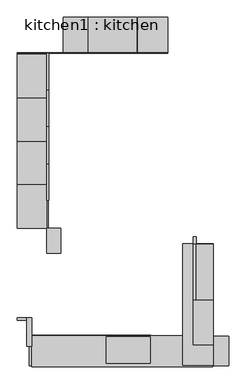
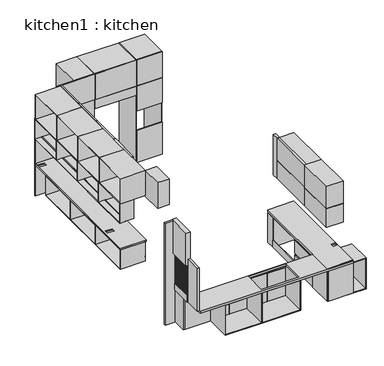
"""IFC4 building model written with IfcOpenShell, lengths in millimetres: proxy geometry, kitchen1 : kitchen."""

from ifc_helpers import new_model, si_unit, point, frame, frame_2d, origin, place, context, project, spatial, polyline, circle_curve, trimmed, segment, composite_curve, outline, extrude, faceted_brep, source, transform, mapped, element, save


def kitchen1_kitchen_40739ad4(model_context):
    return source(origin(), model_context, "Body", "SolidModel", [
        extrude(outline(polyline([(87968.8142829, 9870.1107491), (87968.8142829, 9155.1107491), (87952.8142829, 9155.1107491), (87952.8142829, 9870.1107491), (87968.8142829, 9870.1107491)])), frame((0.0, 0.0, 1482.1317688), z_axis=(0.0, 0.0, 1.0), x_axis=(1.0, 0.0, 0.0)), (0.0, 0.0, 1.0), 517.8682312),
        extrude(outline(polyline([(87968.8142829, 10590.1107491), (87968.8142829, 9875.1107491), (87952.8142829, 9875.1107491), (87952.8142829, 10590.1107491), (87968.8142829, 10590.1107491)])), frame((0.0, 0.0, 1482.1317688), z_axis=(0.0, 0.0, 1.0), x_axis=(1.0, 0.0, 0.0)), (0.0, 0.0, 1.0), 517.8682312),
        extrude(outline(polyline([(87968.8142829, 11314.0538927), (87968.8142829, 10599.0538927), (87952.8142829, 10599.0538927), (87952.8142829, 11314.0538927), (87968.8142829, 11314.0538927)])), frame((0.0, 0.0, 1482.1317688), z_axis=(0.0, 0.0, 1.0), x_axis=(1.0, 0.0, 0.0)), (0.0, 0.0, 1.0), 517.8682312),
        extrude(outline(polyline([(87898.1543572, 6285.5679647), (87898.1543572, 5909.6062924), (87851.8155242, 5909.6062924), (87851.8155242, 6285.5679647), (87898.1543572, 6285.5679647)])), frame((0.0, 0.0, 906.5027851), z_axis=(0.0, 0.0, 1.0), x_axis=(1.0, 0.0, 0.0)), (0.0, 0.0, 1.0), 1058.2779648),
        extrude(outline(polyline([(87905.0220654, 6834.5826469), (87905.0220654, 6491.4994018), (87855.0220654, 6491.4994018), (87855.0220654, 6834.5826469), (87905.0220654, 6834.5826469)])), frame((0.0, 0.0, 104.4307295), z_axis=(0.0, 0.0, 1.0), x_axis=(1.0, 0.0, 0.0)), (0.0, 0.0, 1.0), 802.0720556),
        extrude(outline(polyline([(87905.0220654, 6844.931442), (87905.0220654, 6290.5679647), (87805.0220654, 6290.5679647), (87805.0220654, 6844.931442), (87905.0220654, 6844.931442)])), frame((0.0, 0.0, 1814.7478366), z_axis=(0.0, 0.0, 1.0), x_axis=(1.0, 0.0, 0.0)), (0.0, 0.0, 1.0), 801.9221974),
        extrude(outline(polyline([(88470.9400155, 8605.6997885), (88470.9400155, 8114.8686689), (88202.8142829, 8114.8686689), (88202.8142829, 8605.6997885), (88470.9400155, 8605.6997885)])), frame((0.0, 0.0, 1979.5303702), z_axis=(0.0, 0.0, 1.0), x_axis=(1.0, 0.0, 0.0)), (0.0, 0.0, 1.0), 633.8903504),
        extrude(outline(polyline([(88238.950659, 12039.0538927), (88238.950659, 11324.0538927), (88202.8142829, 11324.0538927), (88202.8142829, 12039.0538927), (88238.950659, 12039.0538927)])), frame((0.0, 0.0, 1979.5303702), z_axis=(0.0, 0.0, 1.0), x_axis=(1.0, 0.0, 0.0)), (0.0, 0.0, 1.0), 637.1396637),
        extrude(outline(polyline([(88238.950659, 11314.0538927), (88238.950659, 10604.0873768), (88202.8142829, 10604.0873768), (88202.8142829, 11314.0538927), (88238.950659, 11314.0538927)])), frame((0.0, 0.0, 1979.5303702), z_axis=(0.0, 0.0, 1.0), x_axis=(1.0, 0.0, 0.0)), (0.0, 0.0, 1.0), 637.1396637),
        extrude(outline(polyline([(88238.950659, 10599.0873768), (88238.950659, 9875.1107491), (88202.8142829, 9875.1107491), (88202.8142829, 10599.0873768), (88238.950659, 10599.0873768)])), frame((0.0, 0.0, 1979.5303702), z_axis=(0.0, 0.0, 1.0), x_axis=(1.0, 0.0, 0.0)), (0.0, 0.0, 1.0), 637.1396637),
        extrude(outline(polyline([(88240.3399602, 9870.1107491), (88240.3399602, 9151.3749882), (88202.8142829, 9151.3749882), (88202.8142829, 9870.1107491), (88240.3399602, 9870.1107491)])), frame((0.0, 0.0, 1979.5303702), z_axis=(0.0, 0.0, 1.0), x_axis=(1.0, 0.0, 0.0)), (0.0, 0.0, 1.0), 633.8903504),
        extrude(outline(polyline([(9460.0241004, 2613.4207206), (9460.0241004, 2000.0), (8605.6997885, 2000.0), (8605.6997885, 2613.4207206), (9460.0241004, 2613.4207206)]), holes=[polyline([(9444.0241004, 2597.4207206), (8621.6997885, 2597.4207206), (8621.6997885, 2016.0), (9444.0241004, 2016.0), (9444.0241004, 2597.4207206)])]), frame((87622.8142829, 0.0, 0.0), z_axis=(1.0, 0.0, 0.0), x_axis=(0.0, 1.0, 0.0)), (0.0, 0.0, 1.0), 580.0),
        extrude(outline(polyline([(87905.0220654, 6844.931442), (87905.0220654, 6804.5826469), (87622.8142829, 6804.5826469), (87622.8142829, 6844.931442), (87905.0220654, 6844.931442)])), frame((0.0, 0.0, 101.1851969), z_axis=(0.0, 0.0, 1.0), x_axis=(1.0, 0.0, 0.0)), (0.0, 0.0, 1.0), 2512.2355238),
        faceted_brep([(87952.8142829, 9487.5680825, 1502.6177202), (87952.8142829, 9487.5680825, 2000.0), (87952.8142829, 8637.0728124, 2000.0), (87952.8142829, 8637.0728124, 1502.6177202), (87952.8142829, 9471.5680825, 1518.6177202), (87952.8142829, 8653.0728124, 1518.6177202), (87952.8142829, 8653.0728124, 1984.0), (87952.8142829, 9471.5680825, 1984.0), (87622.8142829, 9487.5680825, 1502.6177202), (87622.8142829, 8637.0728124, 1502.6177202), (87622.8142829, 8637.0728124, 2000.0), (87622.8142829, 9487.5680825, 2000.0), (87622.8142829, 9471.5680825, 1518.6177202), (87622.8142829, 9471.5680825, 1984.0), (87622.8142829, 8653.0728124, 1984.0), (87622.8142829, 8653.0728124, 1518.6177202), (87779.2554495, 9487.5680825, 1502.6177202), (87779.2554495, 9487.5680825, 1521.5396094), (87748.7155285, 9487.5680825, 1521.5396094), (87748.7155285, 9487.5680825, 1502.6177202), (87748.7155285, 8637.0728124, 1502.6177202), (87748.7155285, 8637.0728124, 1521.5396094), (87779.2554495, 8637.0728124, 1521.5396094), (87779.2554495, 8637.0728124, 1502.6177202), (87779.2554495, 9471.5680825, 1518.6177202), (87779.2554495, 8653.0728124, 1518.6177202), (87748.7155285, 8653.0728124, 1518.6177202), (87748.7155285, 9471.5680825, 1518.6177202), (87779.2554495, 8653.0728124, 1521.5396094), (87748.7155285, 8653.0728124, 1521.5396094), (87748.7155285, 9471.5680825, 1521.5396094), (87779.2554495, 9471.5680825, 1521.5396094)], [[[0, 1, 2, 3], [4, 5, 6, 7]], [[8, 9, 10, 11], [12, 13, 14, 15]], [[1, 0, 16, 17, 18, 19, 8, 11]], [[2, 1, 11, 10]], [[3, 2, 10, 9, 20, 21, 22, 23]], [[0, 3, 23, 16]], [[9, 8, 19, 20]], [[5, 4, 24, 25]], [[12, 15, 26, 27]], [[6, 5, 25, 28, 29, 26, 15, 14]], [[7, 6, 14, 13]], [[4, 7, 13, 12, 27, 30, 31, 24]], [[29, 21, 20, 19, 18, 30, 27, 26]], [[21, 29, 28, 22]], [[30, 18, 17, 31]], [[22, 28, 25, 24, 31, 17, 16, 23]]]),
        faceted_brep([(87952.8142829, 10338.0633526, 1502.6177202), (87952.8142829, 10338.0633526, 2000.0), (87952.8142829, 9487.5680825, 2000.0), (87952.8142829, 9487.5680825, 1502.6177202), (87952.8142829, 10322.0633526, 1518.6177202), (87952.8142829, 9503.5680825, 1518.6177202), (87952.8142829, 9503.5680825, 1984.0), (87952.8142829, 10322.0633526, 1984.0), (87622.8142829, 10338.0633526, 1502.6177202), (87622.8142829, 9487.5680825, 1502.6177202), (87622.8142829, 9487.5680825, 2000.0), (87622.8142829, 10338.0633526, 2000.0), (87622.8142829, 10322.0633526, 1518.6177202), (87622.8142829, 10322.0633526, 1984.0), (87622.8142829, 9503.5680825, 1984.0), (87622.8142829, 9503.5680825, 1518.6177202), (87779.2554495, 10338.0633526, 1502.6177202), (87779.2554495, 10338.0633526, 1521.5396094), (87748.7155285, 10338.0633526, 1521.5396094), (87748.7155285, 10338.0633526, 1502.6177202), (87748.7155285, 9487.5680825, 1502.6177202), (87748.7155285, 9487.5680825, 1521.5396094), (87779.2554495, 9487.5680825, 1521.5396094), (87779.2554495, 9487.5680825, 1502.6177202), (87779.2554495, 10322.0633526, 1518.6177202), (87779.2554495, 9503.5680825, 1518.6177202), (87748.7155285, 9503.5680825, 1518.6177202), (87748.7155285, 10322.0633526, 1518.6177202), (87779.2554495, 9503.5680825, 1521.5396094), (87748.7155285, 9503.5680825, 1521.5396094), (87748.7155285, 10322.0633526, 1521.5396094), (87779.2554495, 10322.0633526, 1521.5396094)], [[[0, 1, 2, 3], [4, 5, 6, 7]], [[8, 9, 10, 11], [12, 13, 14, 15]], [[1, 0, 16, 17, 18, 19, 8, 11]], [[2, 1, 11, 10]], [[3, 2, 10, 9, 20, 21, 22, 23]], [[0, 3, 23, 16]], [[9, 8, 19, 20]], [[5, 4, 24, 25]], [[12, 15, 26, 27]], [[6, 5, 25, 28, 29, 26, 15, 14]], [[7, 6, 14, 13]], [[4, 7, 13, 12, 27, 30, 31, 24]], [[29, 21, 20, 19, 18, 30, 27, 26]], [[21, 29, 28, 22]], [[30, 18, 17, 31]], [[22, 28, 25, 24, 31, 17, 16, 23]]]),
        faceted_brep([(87952.8142829, 11188.5586226, 1502.6177202), (87952.8142829, 11188.5586226, 2000.0), (87952.8142829, 10338.0633526, 2000.0), (87952.8142829, 10338.0633526, 1502.6177202), (87952.8142829, 11172.5586226, 1518.6177202), (87952.8142829, 10354.0633526, 1518.6177202), (87952.8142829, 10354.0633526, 1984.0), (87952.8142829, 11172.5586226, 1984.0), (87622.8142829, 11188.5586226, 1502.6177202), (87622.8142829, 10338.0633526, 1502.6177202), (87622.8142829, 10338.0633526, 2000.0), (87622.8142829, 11188.5586226, 2000.0), (87622.8142829, 11172.5586226, 1518.6177202), (87622.8142829, 11172.5586226, 1984.0), (87622.8142829, 10354.0633526, 1984.0), (87622.8142829, 10354.0633526, 1518.6177202), (87779.2554495, 11188.5586226, 1502.6177202), (87779.2554495, 11188.5586226, 1521.5396094), (87748.7155285, 11188.5586226, 1521.5396094), (87748.7155285, 11188.5586226, 1502.6177202), (87748.7155285, 10338.0633526, 1502.6177202), (87748.7155285, 10338.0633526, 1521.5396094), (87779.2554495, 10338.0633526, 1521.5396094), (87779.2554495, 10338.0633526, 1502.6177202), (87779.2554495, 11172.5586226, 1518.6177202), (87779.2554495, 10354.0633526, 1518.6177202), (87748.7155285, 10354.0633526, 1518.6177202), (87748.7155285, 11172.5586226, 1518.6177202), (87779.2554495, 10354.0633526, 1521.5396094), (87748.7155285, 10354.0633526, 1521.5396094), (87748.7155285, 11172.5586226, 1521.5396094), (87779.2554495, 11172.5586226, 1521.5396094)], [[[0, 1, 2, 3], [4, 5, 6, 7]], [[8, 9, 10, 11], [12, 13, 14, 15]], [[1, 0, 16, 17, 18, 19, 8, 11]], [[2, 1, 11, 10]], [[3, 2, 10, 9, 20, 21, 22, 23]], [[0, 3, 23, 16]], [[9, 8, 19, 20]], [[5, 4, 24, 25]], [[12, 15, 26, 27]], [[6, 5, 25, 28, 29, 26, 15, 14]], [[7, 6, 14, 13]], [[4, 7, 13, 12, 27, 30, 31, 24]], [[29, 21, 20, 19, 18, 30, 27, 26]], [[21, 29, 28, 22]], [[30, 18, 17, 31]], [[22, 28, 25, 24, 31, 17, 16, 23]]]),
        faceted_brep([(87952.8142829, 12039.0538927, 1502.6177202), (87952.8142829, 12039.0538927, 2000.0), (87952.8142829, 11188.5586226, 2000.0), (87952.8142829, 11188.5586226, 1502.6177202), (87952.8142829, 12023.0538927, 1518.6177202), (87952.8142829, 11204.5586226, 1518.6177202), (87952.8142829, 11204.5586226, 1984.0), (87952.8142829, 12023.0538927, 1984.0), (87622.8142829, 12039.0538927, 1502.6177202), (87622.8142829, 11188.5586226, 1502.6177202), (87622.8142829, 11188.5586226, 2000.0), (87622.8142829, 12039.0538927, 2000.0), (87622.8142829, 12023.0538927, 1518.6177202), (87622.8142829, 12023.0538927, 1984.0), (87622.8142829, 11204.5586226, 1984.0), (87622.8142829, 11204.5586226, 1518.6177202), (87748.7155285, 11188.5586226, 1502.6177202), (87748.7155285, 11188.5586226, 1521.5396094), (87779.2554495, 11188.5586226, 1521.5396094), (87779.2554495, 11188.5586226, 1502.6177202), (87779.2554495, 12034.4600318, 1502.6177202), (87748.7155285, 12034.4600318, 1502.6177202), (87779.2554495, 12023.0538927, 1518.6177202), (87779.2554495, 11204.5586226, 1518.6177202), (87748.7155285, 11204.5586226, 1518.6177202), (87748.7155285, 12023.0538927, 1518.6177202), (87779.2554495, 11204.5586226, 1521.5396094), (87748.7155285, 11204.5586226, 1521.5396094), (87748.7155285, 12023.0538927, 1521.5396094), (87779.2554495, 12023.0538927, 1521.5396094), (87779.2554495, 12034.4600318, 1521.5396094), (87748.7155285, 12034.4600318, 1521.5396094)], [[[0, 1, 2, 3], [4, 5, 6, 7]], [[8, 9, 10, 11], [12, 13, 14, 15]], [[1, 0, 8, 11]], [[2, 1, 11, 10]], [[3, 2, 10, 9, 16, 17, 18, 19]], [[0, 3, 19, 20, 21, 16, 9, 8]], [[5, 4, 22, 23]], [[12, 15, 24, 25]], [[6, 5, 23, 26, 27, 24, 15, 14]], [[7, 6, 14, 13]], [[4, 7, 13, 12, 25, 28, 29, 22]], [[30, 31, 21, 20]], [[21, 31, 28, 25, 24, 27, 17, 16]], [[31, 30, 29, 28]], [[17, 27, 26, 18]], [[30, 20, 19, 18, 26, 23, 22, 29]]]),
        extrude(outline(polyline([(91078.0647467, 7205.8256768), (91078.0647467, 8287.4222969), (91125.1689733, 8287.4222969), (91125.1689733, 7205.8256768), (91078.0647467, 7205.8256768)])), frame((0.0, 0.0, 2059.6838445), z_axis=(0.0, 0.0, 1.0), x_axis=(1.0, 0.0, 0.0)), (0.0, 0.0, 1.0), 535.4452003),
        extrude(outline(polyline([(91078.0647467, 7205.8256768), (91078.0647467, 8287.4222969), (91125.1689733, 8287.4222969), (91125.1689733, 7205.8256768), (91078.0647467, 7205.8256768)])), frame((0.0, 0.0, 1600.0), z_axis=(0.0, 0.0, 1.0), x_axis=(1.0, 0.0, 0.0)), (0.0, 0.0, 1.0), 450.0),
        extrude(outline(polyline([(8295.6676286, 2592.7934009), (8295.6676286, 2050.0), (7197.2130213, 2050.0), (7197.2130213, 2592.7934009), (8295.6676286, 2592.7934009)]), holes=[polyline([(7213.2130213, 2066.0), (8279.6676286, 2066.0), (8279.6676286, 2576.7934009), (7213.2130213, 2576.7934009), (7213.2130213, 2066.0)])]), frame((91125.1689733, 0.0, 0.0), z_axis=(1.0, 0.0, 0.0), x_axis=(0.0, 1.0, 0.0)), (0.0, 0.0, 1.0), 341.5533561),
        extrude(outline(polyline([(89973.3334259, 12039.0538927), (89018.2119206, 12039.0538927), (89018.2119206, 12055.0538927), (89973.3334259, 12055.0538927), (89973.3334259, 12039.0538927)])), frame((0.0, 0.0, 1990.3743911), z_axis=(0.0, 0.0, 1.0), x_axis=(1.0, 0.0, 0.0)), (0.0, 0.0, 1.0), 626.2956428),
        extrude(outline(polyline([(88223.5455637, 12039.0538927), (87622.8142829, 12039.0538927), (87622.8142829, 12055.0538927), (88223.5455637, 12055.0538927), (88223.5455637, 12039.0538927)])), frame((0.0, 0.0, 108.9305853), z_axis=(0.0, 0.0, 1.0), x_axis=(1.0, 0.0, 0.0)), (0.0, 0.0, 1.0), 1907.0694147),
        extrude(outline(polyline([(91078.0647467, 8295.6676286), (91078.0647467, 8441.7518002), (91131.7470837, 8441.7518002), (91131.7470837, 8295.6676286), (91078.0647467, 8295.6676286)])), frame((0.0, 0.0, 1600.0), z_axis=(0.0, 0.0, 1.0), x_axis=(1.0, 0.0, 0.0)), (0.0, 0.0, 1.0), 995.1290448),
        extrude(outline(polyline([(90870.7223294, 7225.9263944), (90870.7223294, 8110.2530158), (90886.7223294, 8110.2530158), (90886.7223294, 7225.9263944), (90870.7223294, 7225.9263944)])), frame((0.0, 0.0, 100.612998), z_axis=(0.0, 0.0, 1.0), x_axis=(1.0, 0.0, 0.0)), (0.0, 0.0, 1.0), 173.0940065),
        extrude(outline(polyline([(89978.2182829, 12039.0538927), (89021.2319045, 12039.0538927), (89021.2319045, 12055.0538927), (89978.2182829, 12055.0538927), (89978.2182829, 12039.0538927)])), frame((0.0, 0.0, 1764.5047999), z_axis=(0.0, 0.0, 1.0), x_axis=(1.0, 0.0, 0.0)), (0.0, 0.0, 1.0), 222.5831651),
        extrude(outline(polyline([(91078.0647467, 6317.3965005), (91078.0647467, 7192.3363239), (91466.7223294, 7192.3363239), (91466.7223294, 6317.3965005), (91078.0647467, 6317.3965005)])), frame((0.0, 0.0, 2056.7175134), z_axis=(0.0, 0.0, 1.0), x_axis=(1.0, 0.0, 0.0)), (0.0, 0.0, 1.0), 539.3737249),
        extrude(outline(polyline([(8295.6676286, 2050.0), (8295.6676286, 1600.0), (7197.2130213, 1600.0), (7197.2130213, 2050.0), (8295.6676286, 2050.0)]), holes=[polyline([(7213.2130213, 1616.0), (8279.6676286, 1616.0), (8279.6676286, 2034.0), (7213.2130213, 2034.0), (7213.2130213, 1616.0)])]), frame((91125.1689733, 0.0, 0.0), z_axis=(1.0, 0.0, 0.0), x_axis=(0.0, 1.0, 0.0)), (0.0, 0.0, 1.0), 341.5533561),
        extrude(outline(polyline([(91078.0647467, 6317.3965005), (91078.0647467, 7192.3363239), (91466.7223294, 7192.3363239), (91466.7223294, 6317.3965005), (91078.0647467, 6317.3965005)])), frame((0.0, 0.0, 1600.0), z_axis=(0.0, 0.0, 1.0), x_axis=(1.0, 0.0, 0.0)), (0.0, 0.0, 1.0), 450.0),
        extrude(outline(polyline([(90870.7223294, 6504.3406445), (90870.7223294, 7221.8256768), (90886.7223294, 7221.8256768), (90886.7223294, 6504.3406445), (90870.7223294, 6504.3406445)])), frame((0.0, 0.0, 100.0), z_axis=(0.0, 0.0, 1.0), x_axis=(1.0, 0.0, 0.0)), (0.0, 0.0, 1.0), 350.0),
        extrude(outline(polyline([(90870.7223294, 6499.4379812), (90870.7223294, 7221.8256768), (90886.7223294, 7221.8256768), (90886.7223294, 6499.4379812), (90870.7223294, 6499.4379812)])), frame((0.0, 0.0, 493.1683992), z_axis=(0.0, 0.0, 1.0), x_axis=(1.0, 0.0, 0.0)), (0.0, 0.0, 1.0), 320.8316008),
        extrude(outline(polyline([(90884.3733843, 6194.824303), (90884.3733843, 7221.8256768), (90886.7223294, 7221.8256768), (90886.7223294, 6194.824303), (90884.3733843, 6194.824303)])), frame((0.0, 0.0, 453.1683992), z_axis=(0.0, 0.0, 1.0), x_axis=(1.0, 0.0, 0.0)), (0.0, 0.0, 1.0), 40.0),
        extrude(outline(polyline([(6194.824303, 850.0), (7221.8256768, 850.0), (7221.8256768, 100.0), (6194.824303, 100.0), (6194.824303, 850.0)]), holes=[polyline([(6210.824303, 116.0), (7205.8256768, 116.0), (7205.8256768, 834.0), (6210.824303, 834.0), (6210.824303, 116.0)])]), frame((90886.7223294, 0.0, 0.0), z_axis=(1.0, 0.0, 0.0), x_axis=(0.0, 1.0, 0.0)), (0.0, 0.0, 1.0), 580.0),
        extrude(outline(polyline([(88218.8142829, 12023.6077736), (88218.8142829, 11324.0538927), (88202.8142829, 11324.0538927), (88202.8142829, 12023.6077736), (88218.8142829, 12023.6077736)])), frame((0.0, 0.0, 510.9680553), z_axis=(0.0, 0.0, 1.0), x_axis=(1.0, 0.0, 0.0)), (0.0, 0.0, 1.0), 330.183765),
        extrude(outline(polyline([(88218.8142829, 12023.6077736), (88218.8142829, 11324.0538927), (88202.8142829, 11324.0538927), (88202.8142829, 12023.6077736), (88218.8142829, 12023.6077736)])), frame((0.0, 0.0, 116.0), z_axis=(0.0, 0.0, 1.0), x_axis=(1.0, 0.0, 0.0)), (0.0, 0.0, 1.0), 369.175666),
        extrude(outline(polyline([(88218.8142829, 11314.0538927), (88218.8142829, 10599.0873768), (88202.8142829, 10599.0873768), (88202.8142829, 11314.0538927), (88218.8142829, 11314.0538927)])), frame((0.0, 0.0, 510.9680553), z_axis=(0.0, 0.0, 1.0), x_axis=(1.0, 0.0, 0.0)), (0.0, 0.0, 1.0), 330.183765),
        extrude(outline(polyline([(88218.8142829, 11314.0538927), (88218.8142829, 10599.0873768), (88202.8142829, 10599.0873768), (88202.8142829, 11314.0538927), (88218.8142829, 11314.0538927)])), frame((0.0, 0.0, 116.0), z_axis=(0.0, 0.0, 1.0), x_axis=(1.0, 0.0, 0.0)), (0.0, 0.0, 1.0), 369.175666),
        extrude(outline(polyline([(88218.8142829, 10590.1107491), (88218.8142829, 9875.1107491), (88202.8142829, 9875.1107491), (88202.8142829, 10590.1107491), (88218.8142829, 10590.1107491)])), frame((0.0, 0.0, 510.9680553), z_axis=(0.0, 0.0, 1.0), x_axis=(1.0, 0.0, 0.0)), (0.0, 0.0, 1.0), 330.183765),
        extrude(outline(polyline([(88218.8142829, 10590.1107491), (88218.8142829, 9870.1107491), (88202.8142829, 9870.1107491), (88202.8142829, 10590.1107491), (88218.8142829, 10590.1107491)])), frame((0.0, 0.0, 116.0), z_axis=(0.0, 0.0, 1.0), x_axis=(1.0, 0.0, 0.0)), (0.0, 0.0, 1.0), 369.175666),
        extrude(outline(polyline([(12022.9970363, 2613.4207206), (12022.9970363, 2000.0), (11168.6727244, 2000.0), (11168.6727244, 2613.4207206), (12022.9970363, 2613.4207206)]), holes=[polyline([(12006.9970363, 2597.4207206), (11184.6727244, 2597.4207206), (11184.6727244, 2016.0), (12006.9970363, 2016.0), (12006.9970363, 2597.4207206)])]), frame((87622.8142829, 0.0, 0.0), z_axis=(1.0, 0.0, 0.0), x_axis=(0.0, 1.0, 0.0)), (0.0, 0.0, 1.0), 580.0),
        extrude(outline(polyline([(11168.6727244, 2613.4207206), (11168.6727244, 2000.0), (10314.3484124, 2000.0), (10314.3484124, 2613.4207206), (11168.6727244, 2613.4207206)]), holes=[polyline([(11152.6727244, 2597.4207206), (10330.3484124, 2597.4207206), (10330.3484124, 2016.0), (11152.6727244, 2016.0), (11152.6727244, 2597.4207206)])]), frame((87622.8142829, 0.0, 0.0), z_axis=(1.0, 0.0, 0.0), x_axis=(0.0, 1.0, 0.0)), (0.0, 0.0, 1.0), 580.0),
        extrude(outline(polyline([(10314.3484124, 2613.4207206), (10314.3484124, 2000.0), (9460.0241004, 2000.0), (9460.0241004, 2613.4207206), (10314.3484124, 2613.4207206)]), holes=[polyline([(10298.3484124, 2597.4207206), (9476.0241004, 2597.4207206), (9476.0241004, 2016.0), (10298.3484124, 2016.0), (10298.3484124, 2597.4207206)])]), frame((87622.8142829, 0.0, 0.0), z_axis=(1.0, 0.0, 0.0), x_axis=(0.0, 1.0, 0.0)), (0.0, 0.0, 1.0), 580.0),
        extrude(outline(polyline([(90870.7223294, 8116.006241), (90870.7223294, 8304.6339771), (90886.7223294, 8304.6339771), (90886.7223294, 8116.006241), (90870.7223294, 8116.006241)])), frame((0.0, 0.0, 100.612998), z_axis=(0.0, 0.0, 1.0), x_axis=(1.0, 0.0, 0.0)), (0.0, 0.0, 1.0), 713.387002),
        extrude(outline(polyline([(90884.3733843, 6499.4379812), (90884.3733843, 8304.6339771), (90886.7223294, 8304.6339771), (90886.7223294, 6499.4379812), (90884.3733843, 6499.4379812)])), frame((0.0, 0.0, 813.7762495), z_axis=(0.0, 0.0, 1.0), x_axis=(1.0, 0.0, 0.0)), (0.0, 0.0, 1.0), 40.0),
        extrude(outline(polyline([(8116.006241, 850.0), (8236.1847375, 850.0), (8236.1847375, 100.0), (8116.006241, 100.0), (8116.006241, 850.0)]), holes=[polyline([(8132.006241, 116.0), (8220.1847375, 116.0), (8220.1847375, 834.0), (8132.006241, 834.0), (8132.006241, 116.0)])]), frame((90886.7223294, 0.0, 0.0), z_axis=(1.0, 0.0, 0.0), x_axis=(0.0, 1.0, 0.0)), (0.0, 0.0, 1.0), 580.0),
        extrude(outline(polyline([(5906.0136967, 850.0), (6933.1039966, 850.0), (6933.1039966, 100.0), (5906.0136967, 100.0), (5906.0136967, 850.0)]), holes=[polyline([(5922.0136967, 116.0), (6917.1039966, 116.0), (6917.1039966, 834.0), (5922.0136967, 834.0), (5922.0136967, 116.0)])]), frame((90886.7223294, 0.0, 0.0), z_axis=(1.0, 0.0, 0.0), x_axis=(0.0, 1.0, 0.0)), (0.0, 0.0, 1.0), 580.0),
        extrude(outline(polyline([(89364.437146, 6504.897378), (89796.9428688, 6504.7383653), (89796.9369863, 6488.7383664), (89364.4312636, 6488.8973791), (89364.437146, 6504.897378)])), frame((0.0, 0.0, 100.0), z_axis=(0.0, 0.0, 1.0), x_axis=(1.0, 0.0, 0.0)), (0.0, 0.0, 1.0), 710.2357983),
        extrude(outline(polyline([(89805.3577428, 6504.7352716), (90237.8634655, 6504.5762589), (90237.8575831, 6488.57626), (89805.3518603, 6488.7352727), (89805.3577428, 6504.7352716)])), frame((0.0, 0.0, 100.0), z_axis=(0.0, 0.0, 1.0), x_axis=(1.0, 0.0, 0.0)), (0.0, 0.0, 1.0), 710.2357983),
        extrude(outline(polyline([(88093.0334189, 6491.7137595), (91352.0561143, 6490.5155651), (91352.0552507, 6488.1666202), (88093.0325553, 6489.3648146), (88093.0334189, 6491.7137595)])), frame((0.0, 0.0, 810.2357983), z_axis=(0.0, 0.0, 1.0), x_axis=(1.0, 0.0, 0.0)), (0.0, 0.0, 1.0), 40.0),
        extrude(outline(polyline([(87905.0250084, 6505.4339375), (88911.9429286, 6505.0637396), (88911.9370461, 6489.0637406), (87905.0191259, 6489.4339385), (87905.0250084, 6505.4339375)])), frame((0.0, 0.0, 100.0), z_axis=(0.0, 0.0, 1.0), x_axis=(1.0, 0.0, 0.0)), (0.0, 0.0, 1.0), 710.2357983),
        extrude(outline(polyline([(88920.3578026, 6505.0606458), (89352.8635254, 6504.9016331), (89352.8576429, 6488.9016342), (88920.3519201, 6489.0606469), (88920.3578026, 6505.0606458)])), frame((0.0, 0.0, 100.0), z_axis=(0.0, 0.0, 1.0), x_axis=(1.0, 0.0, 0.0)), (0.0, 0.0, 1.0), 710.2357983),
        faceted_brep([(90247.4071443, 6488.6207554, 850.0), (90247.4071443, 6488.6207554, 100.0), (89347.8576609, 6488.9514789, 100.0), (89347.8576609, 6488.9514789, 850.0), (90231.4071453, 6488.6266379, 116.0), (90231.4071453, 6488.6266379, 834.0), (89363.8576598, 6488.9455964, 834.0), (89363.8576598, 6488.9455964, 116.0), (90247.1939047, 5908.6207946, 850.0), (89347.6444213, 5908.9515181, 850.0), (89347.6444213, 5908.9515181, 100.0), (90247.1939047, 5908.6207946, 100.0), (90231.1939057, 5908.6266771, 116.0), (89363.6444202, 5908.9456356, 116.0), (89363.6444202, 5908.9456356, 834.0), (90231.1939057, 5908.6266771, 834.0), (90231.3059184, 6471.5993148, 850.0), (90231.3059184, 5954.9911886, 850.0), (89363.7563157, 5954.9911886, 850.0), (89363.7563157, 6471.5993148, 850.0), (90231.2109519, 5954.9911886, 834.0), (90231.4008852, 6471.5992799, 834.0), (89363.8512823, 6471.5993148, 834.0), (89363.661349, 5954.9911886, 834.0)], [[[0, 1, 2, 3], [4, 5, 6, 7]], [[8, 9, 10, 11], [12, 13, 14, 15]], [[1, 0, 8, 11]], [[2, 1, 11, 10]], [[3, 2, 10, 9]], [[0, 3, 9, 8], [16, 17, 18, 19]], [[5, 4, 12, 15, 20, 17, 16, 21]], [[6, 5, 21, 22]], [[15, 14, 23, 20]], [[7, 6, 22, 19, 18, 23, 14, 13]], [[4, 7, 13, 12]], [[17, 20, 23, 18]], [[21, 16, 19, 22]]]),
        extrude(outline(polyline([(0.0, 0.0), (0.0, -852.0096848), (-750.0, -852.0096848), (-750.0, 0.0), (0.0, 0.0)]), holes=[polyline([(-734.0, -16.0), (-734.0, -836.0096847), (-16.0, -836.0096847), (-16.0, -16.0), (-734.0, -16.0)])]), frame((89347.6444036, 5908.9035117, 850.0), z_axis=(0.0003676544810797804, 0.999999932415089, 0.0), x_axis=(0.0, 0.0, 1.0)), (0.0, 0.0, 1.0), 580.0),
        extrude(outline(polyline([(0.0, 0.0), (0.0, -899.5495442), (-750.0, -899.5495442), (-750.0, 0.0), (0.0, 0.0)]), holes=[polyline([(-734.0, -16.0), (-734.0, -883.5495442), (-16.0, -883.5495442), (-16.0, -16.0), (-734.0, -16.0)])]), frame((91766.7432947, 5908.0141191, 850.0), z_axis=(0.0003676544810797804, 0.999999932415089, 0.0), x_axis=(0.0, 0.0, 1.0)), (0.0, 0.0, 1.0), 580.0),
        extrude(outline(polyline([(6834.5826469, 1814.7478366), (6834.5826469, 906.5027851), (6292.7811789, 906.5027851), (6292.7811789, 1814.7478366), (6834.5826469, 1814.7478366)]), holes=[composite_curve([segment(trimmed(circle_curve(frame_2d((6351.1184437, 1731.089786)), 5.0), [point((6351.1184437, 1736.089786))], [point((6351.1184437, 1726.089786))], True, "CARTESIAN"), True, "CONTINUOUS"), segment(polyline([(6351.1184437, 1726.089786), (6806.1184437, 1726.089786)]), True, "CONTINUOUS"), segment(trimmed(circle_curve(frame_2d((6806.1184437, 1731.089786)), 5.0), [point((6806.1184437, 1726.089786))], [point((6806.1184437, 1736.089786))], True, "CARTESIAN"), True, "CONTINUOUS"), segment(polyline([(6806.1184437, 1736.089786), (6351.1184437, 1736.089786)]), True, "CONTINUOUS")], self_intersect=False), composite_curve([segment(trimmed(circle_curve(frame_2d((6351.1184437, 1706.089786)), 5.0), [point((6351.1184437, 1711.089786))], [point((6351.1184437, 1701.089786))], True, "CARTESIAN"), True, "CONTINUOUS"), segment(polyline([(6351.1184437, 1701.089786), (6806.1184437, 1701.089786)]), True, "CONTINUOUS"), segment(trimmed(circle_curve(frame_2d((6806.1184437, 1706.089786)), 5.0), [point((6806.1184437, 1701.089786))], [point((6806.1184437, 1711.089786))], True, "CARTESIAN"), True, "CONTINUOUS"), segment(polyline([(6806.1184437, 1711.089786), (6351.1184437, 1711.089786)]), True, "CONTINUOUS")], self_intersect=False), composite_curve([segment(trimmed(circle_curve(frame_2d((6351.1184437, 1680.5678798)), 5.0), [point((6351.1184437, 1685.5678798))], [point((6351.1184437, 1675.5678798))], True, "CARTESIAN"), True, "CONTINUOUS"), segment(polyline([(6351.1184437, 1675.5678798), (6806.1184437, 1675.5678798)]), True, "CONTINUOUS"), segment(trimmed(circle_curve(frame_2d((6806.1184437, 1680.5678798)), 5.0), [point((6806.1184437, 1675.5678798))], [point((6806.1184437, 1685.5678798))], True, "CARTESIAN"), True, "CONTINUOUS"), segment(polyline([(6806.1184437, 1685.5678798), (6351.1184437, 1685.5678798)]), True, "CONTINUOUS")], self_intersect=False), composite_curve([segment(trimmed(circle_curve(frame_2d((6351.1184437, 1655.0459736)), 5.0), [point((6351.1184437, 1660.0459736))], [point((6351.1184437, 1650.0459736))], True, "CARTESIAN"), True, "CONTINUOUS"), segment(polyline([(6351.1184437, 1650.0459736), (6806.1184437, 1650.0459736)]), True, "CONTINUOUS"), segment(trimmed(circle_curve(frame_2d((6806.1184437, 1655.0459736)), 5.0), [point((6806.1184437, 1650.0459736))], [point((6806.1184437, 1660.0459736))], True, "CARTESIAN"), True, "CONTINUOUS"), segment(polyline([(6806.1184437, 1660.0459736), (6351.1184437, 1660.0459736)]), True, "CONTINUOUS")], self_intersect=False), composite_curve([segment(trimmed(circle_curve(frame_2d((6351.1184437, 1629.5240674)), 5.0), [point((6351.1184437, 1634.5240674))], [point((6351.1184437, 1624.5240674))], True, "CARTESIAN"), True, "CONTINUOUS"), segment(polyline([(6351.1184437, 1624.5240674), (6806.1184437, 1624.5240674)]), True, "CONTINUOUS"), segment(trimmed(circle_curve(frame_2d((6806.1184437, 1629.5240674)), 5.0), [point((6806.1184437, 1624.5240674))], [point((6806.1184437, 1634.5240674))], True, "CARTESIAN"), True, "CONTINUOUS"), segment(polyline([(6806.1184437, 1634.5240674), (6351.1184437, 1634.5240674)]), True, "CONTINUOUS")], self_intersect=False), composite_curve([segment(trimmed(circle_curve(frame_2d((6351.1184437, 1604.0021611)), 5.0), [point((6351.1184437, 1609.0021611))], [point((6351.1184437, 1599.0021611))], True, "CARTESIAN"), True, "CONTINUOUS"), segment(polyline([(6351.1184437, 1599.0021611), (6806.1184437, 1599.0021611)]), True, "CONTINUOUS"), segment(trimmed(circle_curve(frame_2d((6806.1184437, 1604.0021611)), 5.0), [point((6806.1184437, 1599.0021611))], [point((6806.1184437, 1609.0021611))], True, "CARTESIAN"), True, "CONTINUOUS"), segment(polyline([(6806.1184437, 1609.0021611), (6351.1184437, 1609.0021611)]), True, "CONTINUOUS")], self_intersect=False), composite_curve([segment(trimmed(circle_curve(frame_2d((6351.1184437, 1578.4802549)), 5.0), [point((6351.1184437, 1583.4802549))], [point((6351.1184437, 1573.4802549))], True, "CARTESIAN"), True, "CONTINUOUS"), segment(polyline([(6351.1184437, 1573.4802549), (6806.1184437, 1573.4802549)]), True, "CONTINUOUS"), segment(trimmed(circle_curve(frame_2d((6806.1184437, 1578.4802549)), 5.0), [point((6806.1184437, 1573.4802549))], [point((6806.1184437, 1583.4802549))], True, "CARTESIAN"), True, "CONTINUOUS"), segment(polyline([(6806.1184437, 1583.4802549), (6351.1184437, 1583.4802549)]), True, "CONTINUOUS")], self_intersect=False), composite_curve([segment(trimmed(circle_curve(frame_2d((6351.1184437, 1552.9583487)), 5.0), [point((6351.1184437, 1557.9583487))], [point((6351.1184437, 1547.9583487))], True, "CARTESIAN"), True, "CONTINUOUS"), segment(polyline([(6351.1184437, 1547.9583487), (6806.1184437, 1547.9583487)]), True, "CONTINUOUS"), segment(trimmed(circle_curve(frame_2d((6806.1184437, 1552.9583487)), 5.0), [point((6806.1184437, 1547.9583487))], [point((6806.1184437, 1557.9583487))], True, "CARTESIAN"), True, "CONTINUOUS"), segment(polyline([(6806.1184437, 1557.9583487), (6351.1184437, 1557.9583487)]), True, "CONTINUOUS")], self_intersect=False), composite_curve([segment(trimmed(circle_curve(frame_2d((6351.1184437, 1527.4364425)), 5.0), [point((6351.1184437, 1532.4364425))], [point((6351.1184437, 1522.4364425))], True, "CARTESIAN"), True, "CONTINUOUS"), segment(polyline([(6351.1184437, 1522.4364425), (6806.1184437, 1522.4364425)]), True, "CONTINUOUS"), segment(trimmed(circle_curve(frame_2d((6806.1184437, 1527.4364425)), 5.0), [point((6806.1184437, 1522.4364425))], [point((6806.1184437, 1532.4364425))], True, "CARTESIAN"), True, "CONTINUOUS"), segment(polyline([(6806.1184437, 1532.4364425), (6351.1184437, 1532.4364425)]), True, "CONTINUOUS")], self_intersect=False), composite_curve([segment(trimmed(circle_curve(frame_2d((6351.1184437, 1501.9145363)), 5.0), [point((6351.1184437, 1506.9145363))], [point((6351.1184437, 1496.9145363))], True, "CARTESIAN"), True, "CONTINUOUS"), segment(polyline([(6351.1184437, 1496.9145363), (6806.1184437, 1496.9145363)]), True, "CONTINUOUS"), segment(trimmed(circle_curve(frame_2d((6806.1184437, 1501.9145363)), 5.0), [point((6806.1184437, 1496.9145363))], [point((6806.1184437, 1506.9145363))], True, "CARTESIAN"), True, "CONTINUOUS"), segment(polyline([(6806.1184437, 1506.9145363), (6351.1184437, 1506.9145363)]), True, "CONTINUOUS")], self_intersect=False), composite_curve([segment(trimmed(circle_curve(frame_2d((6351.1184437, 1476.3926301)), 5.0), [point((6351.1184437, 1481.3926301))], [point((6351.1184437, 1471.3926301))], True, "CARTESIAN"), True, "CONTINUOUS"), segment(polyline([(6351.1184437, 1471.3926301), (6806.1184437, 1471.3926301)]), True, "CONTINUOUS"), segment(trimmed(circle_curve(frame_2d((6806.1184437, 1476.3926301)), 5.0), [point((6806.1184437, 1471.3926301))], [point((6806.1184437, 1481.3926301))], True, "CARTESIAN"), True, "CONTINUOUS"), segment(polyline([(6806.1184437, 1481.3926301), (6351.1184437, 1481.3926301)]), True, "CONTINUOUS")], self_intersect=False), composite_curve([segment(trimmed(circle_curve(frame_2d((6351.1184437, 1450.8707238)), 5.0), [point((6351.1184437, 1455.8707238))], [point((6351.1184437, 1445.8707238))], True, "CARTESIAN"), True, "CONTINUOUS"), segment(polyline([(6351.1184437, 1445.8707238), (6806.1184437, 1445.8707238)]), True, "CONTINUOUS"), segment(trimmed(circle_curve(frame_2d((6806.1184437, 1450.8707238)), 5.0), [point((6806.1184437, 1445.8707238))], [point((6806.1184437, 1455.8707238))], True, "CARTESIAN"), True, "CONTINUOUS"), segment(polyline([(6806.1184437, 1455.8707238), (6351.1184437, 1455.8707238)]), True, "CONTINUOUS")], self_intersect=False), composite_curve([segment(trimmed(circle_curve(frame_2d((6351.1184437, 1425.3488176)), 5.0), [point((6351.1184437, 1430.3488176))], [point((6351.1184437, 1420.3488176))], True, "CARTESIAN"), True, "CONTINUOUS"), segment(polyline([(6351.1184437, 1420.3488176), (6806.1184437, 1420.3488176)]), True, "CONTINUOUS"), segment(trimmed(circle_curve(frame_2d((6806.1184437, 1425.3488176)), 5.0), [point((6806.1184437, 1420.3488176))], [point((6806.1184437, 1430.3488176))], True, "CARTESIAN"), True, "CONTINUOUS"), segment(polyline([(6806.1184437, 1430.3488176), (6351.1184437, 1430.3488176)]), True, "CONTINUOUS")], self_intersect=False), composite_curve([segment(trimmed(circle_curve(frame_2d((6351.1184437, 1399.8269114)), 5.0), [point((6351.1184437, 1404.8269114))], [point((6351.1184437, 1394.8269114))], True, "CARTESIAN"), True, "CONTINUOUS"), segment(polyline([(6351.1184437, 1394.8269114), (6806.1184437, 1394.8269114)]), True, "CONTINUOUS"), segment(trimmed(circle_curve(frame_2d((6806.1184437, 1399.8269114)), 5.0), [point((6806.1184437, 1394.8269114))], [point((6806.1184437, 1404.8269114))], True, "CARTESIAN"), True, "CONTINUOUS"), segment(polyline([(6806.1184437, 1404.8269114), (6351.1184437, 1404.8269114)]), True, "CONTINUOUS")], self_intersect=False), composite_curve([segment(trimmed(circle_curve(frame_2d((6351.1184437, 1374.3050052)), 5.0), [point((6351.1184437, 1379.3050052))], [point((6351.1184437, 1369.3050052))], True, "CARTESIAN"), True, "CONTINUOUS"), segment(polyline([(6351.1184437, 1369.3050052), (6806.1184437, 1369.3050052)]), True, "CONTINUOUS"), segment(trimmed(circle_curve(frame_2d((6806.1184437, 1374.3050052)), 5.0), [point((6806.1184437, 1369.3050052))], [point((6806.1184437, 1379.3050052))], True, "CARTESIAN"), True, "CONTINUOUS"), segment(polyline([(6806.1184437, 1379.3050052), (6351.1184437, 1379.3050052)]), True, "CONTINUOUS")], self_intersect=False), composite_curve([segment(trimmed(circle_curve(frame_2d((6351.1184437, 1348.783099)), 5.0), [point((6351.1184437, 1353.783099))], [point((6351.1184437, 1343.783099))], True, "CARTESIAN"), True, "CONTINUOUS"), segment(polyline([(6351.1184437, 1343.783099), (6806.1184437, 1343.783099)]), True, "CONTINUOUS"), segment(trimmed(circle_curve(frame_2d((6806.1184437, 1348.783099)), 5.0), [point((6806.1184437, 1343.783099))], [point((6806.1184437, 1353.783099))], True, "CARTESIAN"), True, "CONTINUOUS"), segment(polyline([(6806.1184437, 1353.783099), (6351.1184437, 1353.783099)]), True, "CONTINUOUS")], self_intersect=False), composite_curve([segment(trimmed(circle_curve(frame_2d((6351.1184437, 1323.2611927)), 5.0), [point((6351.1184437, 1328.2611927))], [point((6351.1184437, 1318.2611927))], True, "CARTESIAN"), True, "CONTINUOUS"), segment(polyline([(6351.1184437, 1318.2611927), (6806.1184437, 1318.2611927)]), True, "CONTINUOUS"), segment(trimmed(circle_curve(frame_2d((6806.1184437, 1323.2611927)), 5.0), [point((6806.1184437, 1318.2611927))], [point((6806.1184437, 1328.2611927))], True, "CARTESIAN"), True, "CONTINUOUS"), segment(polyline([(6806.1184437, 1328.2611927), (6351.1184437, 1328.2611927)]), True, "CONTINUOUS")], self_intersect=False), composite_curve([segment(trimmed(circle_curve(frame_2d((6351.1184437, 1297.7392865)), 5.0), [point((6351.1184437, 1302.7392865))], [point((6351.1184437, 1292.7392865))], True, "CARTESIAN"), True, "CONTINUOUS"), segment(polyline([(6351.1184437, 1292.7392865), (6806.1184437, 1292.7392865)]), True, "CONTINUOUS"), segment(trimmed(circle_curve(frame_2d((6806.1184437, 1297.7392865)), 5.0), [point((6806.1184437, 1292.7392865))], [point((6806.1184437, 1302.7392865))], True, "CARTESIAN"), True, "CONTINUOUS"), segment(polyline([(6806.1184437, 1302.7392865), (6351.1184437, 1302.7392865)]), True, "CONTINUOUS")], self_intersect=False), composite_curve([segment(trimmed(circle_curve(frame_2d((6351.1184437, 1272.2173803)), 5.0), [point((6351.1184437, 1277.2173803))], [point((6351.1184437, 1267.2173803))], True, "CARTESIAN"), True, "CONTINUOUS"), segment(polyline([(6351.1184437, 1267.2173803), (6806.1184437, 1267.2173803)]), True, "CONTINUOUS"), segment(trimmed(circle_curve(frame_2d((6806.1184437, 1272.2173803)), 5.0), [point((6806.1184437, 1267.2173803))], [point((6806.1184437, 1277.2173803))], True, "CARTESIAN"), True, "CONTINUOUS"), segment(polyline([(6806.1184437, 1277.2173803), (6351.1184437, 1277.2173803)]), True, "CONTINUOUS")], self_intersect=False), composite_curve([segment(trimmed(circle_curve(frame_2d((6351.1184437, 1246.6954741)), 5.0), [point((6351.1184437, 1251.6954741))], [point((6351.1184437, 1241.6954741))], True, "CARTESIAN"), True, "CONTINUOUS"), segment(polyline([(6351.1184437, 1241.6954741), (6806.1184437, 1241.6954741)]), True, "CONTINUOUS"), segment(trimmed(circle_curve(frame_2d((6806.1184437, 1246.6954741)), 5.0), [point((6806.1184437, 1241.6954741))], [point((6806.1184437, 1251.6954741))], True, "CARTESIAN"), True, "CONTINUOUS"), segment(polyline([(6806.1184437, 1251.6954741), (6351.1184437, 1251.6954741)]), True, "CONTINUOUS")], self_intersect=False), composite_curve([segment(trimmed(circle_curve(frame_2d((6351.1184437, 1221.1735679)), 5.0), [point((6351.1184437, 1226.1735679))], [point((6351.1184437, 1216.1735679))], True, "CARTESIAN"), True, "CONTINUOUS"), segment(polyline([(6351.1184437, 1216.1735679), (6806.1184437, 1216.1735679)]), True, "CONTINUOUS"), segment(trimmed(circle_curve(frame_2d((6806.1184437, 1221.1735679)), 5.0), [point((6806.1184437, 1216.1735679))], [point((6806.1184437, 1226.1735679))], True, "CARTESIAN"), True, "CONTINUOUS"), segment(polyline([(6806.1184437, 1226.1735679), (6351.1184437, 1226.1735679)]), True, "CONTINUOUS")], self_intersect=False), composite_curve([segment(trimmed(circle_curve(frame_2d((6351.1184437, 1195.6516616)), 5.0), [point((6351.1184437, 1200.6516616))], [point((6351.1184437, 1190.6516616))], True, "CARTESIAN"), True, "CONTINUOUS"), segment(polyline([(6351.1184437, 1190.6516616), (6806.1184437, 1190.6516616)]), True, "CONTINUOUS"), segment(trimmed(circle_curve(frame_2d((6806.1184437, 1195.6516616)), 5.0), [point((6806.1184437, 1190.6516616))], [point((6806.1184437, 1200.6516616))], True, "CARTESIAN"), True, "CONTINUOUS"), segment(polyline([(6806.1184437, 1200.6516616), (6351.1184437, 1200.6516616)]), True, "CONTINUOUS")], self_intersect=False), composite_curve([segment(trimmed(circle_curve(frame_2d((6351.1184437, 1170.1297554)), 5.0), [point((6351.1184437, 1175.1297554))], [point((6351.1184437, 1165.1297554))], True, "CARTESIAN"), True, "CONTINUOUS"), segment(polyline([(6351.1184437, 1165.1297554), (6806.1184437, 1165.1297554)]), True, "CONTINUOUS"), segment(trimmed(circle_curve(frame_2d((6806.1184437, 1170.1297554)), 5.0), [point((6806.1184437, 1165.1297554))], [point((6806.1184437, 1175.1297554))], True, "CARTESIAN"), True, "CONTINUOUS"), segment(polyline([(6806.1184437, 1175.1297554), (6351.1184437, 1175.1297554)]), True, "CONTINUOUS")], self_intersect=False), composite_curve([segment(trimmed(circle_curve(frame_2d((6351.1184437, 1144.6078492)), 5.0), [point((6351.1184437, 1149.6078492))], [point((6351.1184437, 1139.6078492))], True, "CARTESIAN"), True, "CONTINUOUS"), segment(polyline([(6351.1184437, 1139.6078492), (6806.1184437, 1139.6078492)]), True, "CONTINUOUS"), segment(trimmed(circle_curve(frame_2d((6806.1184437, 1144.6078492)), 5.0), [point((6806.1184437, 1139.6078492))], [point((6806.1184437, 1149.6078492))], True, "CARTESIAN"), True, "CONTINUOUS"), segment(polyline([(6806.1184437, 1149.6078492), (6351.1184437, 1149.6078492)]), True, "CONTINUOUS")], self_intersect=False), composite_curve([segment(trimmed(circle_curve(frame_2d((6351.1184437, 1119.085943)), 5.0), [point((6351.1184437, 1124.085943))], [point((6351.1184437, 1114.085943))], True, "CARTESIAN"), True, "CONTINUOUS"), segment(polyline([(6351.1184437, 1114.085943), (6806.1184437, 1114.085943)]), True, "CONTINUOUS"), segment(trimmed(circle_curve(frame_2d((6806.1184437, 1119.085943)), 5.0), [point((6806.1184437, 1114.085943))], [point((6806.1184437, 1124.085943))], True, "CARTESIAN"), True, "CONTINUOUS"), segment(polyline([(6806.1184437, 1124.085943), (6351.1184437, 1124.085943)]), True, "CONTINUOUS")], self_intersect=False), composite_curve([segment(trimmed(circle_curve(frame_2d((6351.1184437, 1093.5640368)), 5.0), [point((6351.1184437, 1098.5640368))], [point((6351.1184437, 1088.5640368))], True, "CARTESIAN"), True, "CONTINUOUS"), segment(polyline([(6351.1184437, 1088.5640368), (6806.1184437, 1088.5640368)]), True, "CONTINUOUS"), segment(trimmed(circle_curve(frame_2d((6806.1184437, 1093.5640368)), 5.0), [point((6806.1184437, 1088.5640368))], [point((6806.1184437, 1098.5640368))], True, "CARTESIAN"), True, "CONTINUOUS"), segment(polyline([(6806.1184437, 1098.5640368), (6351.1184437, 1098.5640368)]), True, "CONTINUOUS")], self_intersect=False), composite_curve([segment(trimmed(circle_curve(frame_2d((6351.1184437, 1068.0421306)), 5.0), [point((6351.1184437, 1073.0421306))], [point((6351.1184437, 1063.0421306))], True, "CARTESIAN"), True, "CONTINUOUS"), segment(polyline([(6351.1184437, 1063.0421306), (6806.1184437, 1063.0421306)]), True, "CONTINUOUS"), segment(trimmed(circle_curve(frame_2d((6806.1184437, 1068.0421306)), 5.0), [point((6806.1184437, 1063.0421306))], [point((6806.1184437, 1073.0421306))], True, "CARTESIAN"), True, "CONTINUOUS"), segment(polyline([(6806.1184437, 1073.0421306), (6351.1184437, 1073.0421306)]), True, "CONTINUOUS")], self_intersect=False)]), frame((87842.8142829, 0.0, 0.0), z_axis=(1.0, 0.0, 0.0), x_axis=(0.0, 1.0, 0.0)), (0.0, 0.0, 1.0), 62.2077825),
        extrude(outline(polyline([(88205.7892139, 12035.7398651), (88205.7892139, 8609.5826469), (88202.8142829, 8609.5826469), (88202.8142829, 12035.7398651), (88205.7892139, 12035.7398651)])), frame((0.0, 0.0, 486.1518203), z_axis=(0.0, 0.0, 1.0), x_axis=(1.0, 0.0, 0.0)), (0.0, 0.0, 1.0), 24.816235),
        extrude(outline(polyline([(88205.7892139, 12039.0538927), (88205.7892139, 8609.5826469), (88202.8142829, 8609.5826469), (88202.8142829, 12039.0538927), (88205.7892139, 12039.0538927)])), frame((0.0, 0.0, 841.1518203), z_axis=(0.0, 0.0, 1.0), x_axis=(1.0, 0.0, 0.0)), (0.0, 0.0, 1.0), 24.816235),
        extrude(outline(polyline([(88218.8142829, 9870.1107491), (88218.8142829, 9110.0040337), (88202.8142829, 9110.0040337), (88202.8142829, 9870.1107491), (88218.8142829, 9870.1107491)])), frame((0.0, 0.0, 510.9680553), z_axis=(0.0, 0.0, 1.0), x_axis=(1.0, 0.0, 0.0)), (0.0, 0.0, 1.0), 330.183765),
        extrude(outline(polyline([(87968.8142829, 12039.0538927), (87968.8142829, 11324.0538927), (87952.8142829, 11324.0538927), (87952.8142829, 12039.0538927), (87968.8142829, 12039.0538927)])), frame((0.0, 0.0, 1482.1317688), z_axis=(0.0, 0.0, 1.0), x_axis=(1.0, 0.0, 0.0)), (0.0, 0.0, 1.0), 517.8682312),
        extrude(outline(polyline([(88218.8142829, 9865.1061635), (88218.8142829, 9143.3794058), (88202.8142829, 9143.3794058), (88202.8142829, 9865.1061635), (88218.8142829, 9865.1061635)])), frame((0.0, 0.0, 116.0), z_axis=(0.0, 0.0, 1.0), x_axis=(1.0, 0.0, 0.0)), (0.0, 0.0, 1.0), 369.175666),
        extrude(outline(polyline([(8615.0873768, 865.9680553), (9615.0873768, 865.9680553), (9615.0873768, 384.6743256), (8615.0873768, 384.6743256), (8615.0873768, 865.9680553)]), holes=[polyline([(8631.0873768, 400.6743256), (9599.0873768, 400.6743256), (9599.0873768, 849.9680553), (8631.0873768, 849.9680553), (8631.0873768, 400.6743256)])]), frame((87622.8142829, 0.0, 0.0), z_axis=(1.0, 0.0, 0.0), x_axis=(0.0, 1.0, 0.0)), (0.0, 0.0, 1.0), 580.0),
        extrude(outline(polyline([(9615.0873768, 865.9680553), (10615.0873768, 865.9680553), (10615.0873768, 384.6326762), (9615.0873768, 384.6326762), (9615.0873768, 865.9680553)]), holes=[polyline([(9631.0873768, 400.6326762), (10599.0873768, 400.6326762), (10599.0873768, 849.9680553), (9631.0873768, 849.9680553), (9631.0873768, 400.6326762)])]), frame((87622.8142829, 0.0, 0.0), z_axis=(1.0, 0.0, 0.0), x_axis=(0.0, 1.0, 0.0)), (0.0, 0.0, 1.0), 580.0),
        extrude(outline(polyline([(10615.0873768, 865.9680553), (11615.0873768, 865.9680553), (11615.0873768, 384.3049848), (10615.0873768, 384.3049848), (10615.0873768, 865.9680553)]), holes=[polyline([(10631.0873768, 400.3049848), (11599.0873768, 400.3049848), (11599.0873768, 849.9680553), (10631.0873768, 849.9680553), (10631.0873768, 400.3049848)])]), frame((87622.8142829, 0.0, 0.0), z_axis=(1.0, 0.0, 0.0), x_axis=(0.0, 1.0, 0.0)), (0.0, 0.0, 1.0), 580.0),
        extrude(outline(polyline([(90570.1525876, 12039.0538927), (89981.517856, 12039.0538927), (89981.517856, 12055.0538927), (90570.1525876, 12055.0538927), (90570.1525876, 12039.0538927)])), frame((0.0, 0.0, 1990.3743911), z_axis=(0.0, 0.0, 1.0), x_axis=(1.0, 0.0, 0.0)), (0.0, 0.0, 1.0), 626.2956428),
        extrude(outline(polyline([(89008.3368224, 12039.0538927), (88147.985489, 12039.0538927), (88147.985489, 12055.0538927), (89008.3368224, 12055.0538927), (89008.3368224, 12039.0538927)])), frame((0.0, 0.0, 1990.3743911), z_axis=(0.0, 0.0, 1.0), x_axis=(1.0, 0.0, 0.0)), (0.0, 0.0, 1.0), 626.2956428),
        extrude(outline(polyline([(89002.2119206, 12039.0538927), (88223.5455637, 12039.0538927), (88223.5455637, 12055.0538927), (89002.2119206, 12055.0538927), (89002.2119206, 12039.0538927)])), frame((0.0, 0.0, 108.9305853), z_axis=(0.0, 0.0, 1.0), x_axis=(1.0, 0.0, 0.0)), (0.0, 0.0, 1.0), 2507.7394487),
        extrude(outline(polyline([(90576.2299068, 12039.0538927), (89979.892856, 12039.0538927), (89979.892856, 12055.0538927), (90576.2299068, 12055.0538927), (90576.2299068, 12039.0538927)])), frame((0.0, 0.0, 100.0), z_axis=(0.0, 0.0, 1.0), x_axis=(1.0, 0.0, 0.0)), (0.0, 0.0, 1.0), 789.6199826),
        extrude(outline(polyline([(90570.1525876, 12039.0538927), (89979.892856, 12039.0538927), (89979.892856, 12055.0538927), (90570.1525876, 12055.0538927), (90570.1525876, 12039.0538927)])), frame((0.0, 0.0, 1365.2095755), z_axis=(0.0, 0.0, 1.0), x_axis=(1.0, 0.0, 0.0)), (0.0, 0.0, 1.0), 621.8783895),
        extrude(outline(polyline([(2616.6700339, 88525.6003062), (100.0, 88525.6003062), (100.0, 89002.2119206), (2616.6700339, 89002.2119206), (2616.6700339, 88525.6003062)]), holes=[polyline([(2600.6700339, 88541.6003062), (2600.6700339, 88986.2119206), (116.0, 88986.2119206), (116.0, 88541.6003062), (2600.6700339, 88541.6003062)])]), frame((0.0, 12055.0538927, 0.0), z_axis=(0.0, 1.0, 0.0), x_axis=(0.0, 0.0, 1.0)), (0.0, 0.0, 1.0), 689.7292206),
        faceted_brep([(90866.7223294, 5916.6071045, 900.0), (91466.7223294, 5916.6071045, 900.0), (91466.7223294, 8304.6339771, 900.0), (90866.7223294, 8304.6339771, 900.0), (91366.1723294, 6535.6214771, 900.0), (91366.1723294, 6616.7714771, 900.0), (91447.2723294, 6616.7714771, 900.0), (91447.2723294, 6535.6214771, 900.0), (90866.7223294, 5916.6071045, 850.0), (90866.7223294, 8304.6339771, 850.0), (91466.7223294, 8304.6339771, 850.0), (91466.7223294, 5916.6071045, 850.0), (91366.1723294, 6616.7714771, 875.0), (91366.1723294, 6535.6214771, 875.0), (91447.2723294, 6535.6214771, 875.0), (91447.2723294, 6616.7714771, 875.0)], [[[0, 1, 2, 3], [4, 5, 6, 7]], [[8, 9, 10, 11]], [[1, 0, 8, 11]], [[2, 1, 11, 10]], [[0, 3, 9, 8]], [[12, 13, 14, 15]], [[13, 12, 5, 4]], [[14, 13, 4, 7]], [[15, 14, 7, 6]], [[12, 15, 6, 5]], [[3, 2, 10, 9]]]),
        extrude(outline(polyline([(87905.0298096, 6491.5219216), (91457.4301066, 6491.3883465), (91457.4075458, 5891.388347), (87905.0072487, 5891.521922), (87905.0298096, 6491.5219216)]), holes=[polyline([(90231.3059184, 5954.9911886), (90231.3059184, 6471.5993148), (89363.7563157, 6471.5993148), (89363.7563157, 5954.9911886), (90231.3059184, 5954.9911886)])]), frame((0.0, 0.0, 850.0), z_axis=(0.0, 0.0, 1.0), x_axis=(1.0, 0.0, 0.0)), (0.0, 0.0, 1.0), 50.0),
        faceted_brep([(88223.5455637, 8609.5826469, 865.9680553), (88223.5455637, 12039.0538927, 865.9680553), (88223.5455637, 12039.0538927, 903.8888586), (88223.5455637, 8609.5826469, 903.8888586), (87622.8142829, 8609.5826469, 865.9680553), (87622.8142829, 8609.5826469, 903.8888586), (87622.8142829, 12039.0538927, 903.8888586), (87622.8142829, 12039.0538927, 865.9680553), (87660.143906, 9202.9418965, 903.8888586), (87660.143906, 9284.0918965, 903.8888586), (87821.243906, 9284.0918965, 903.8888586), (87821.243906, 9202.9418965, 903.8888586), (87793.3642829, 11890.0332092, 903.8888586), (87632.2642829, 11890.0332092, 903.8888586), (87632.2642829, 11971.1832092, 903.8888586), (87793.3642829, 11971.1832092, 903.8888586), (87660.143906, 9284.0918965, 878.8888586), (87660.143906, 9202.9418965, 878.8888586), (87821.243906, 9202.9418965, 878.8888586), (87821.243906, 9284.0918965, 878.8888586), (87632.2642829, 11971.1832092, 878.8888586), (87632.2642829, 11890.0332092, 878.8888586), (87793.3642829, 11890.0332092, 878.8888586), (87793.3642829, 11971.1832092, 878.8888586)], [[[0, 1, 2, 3]], [[4, 5, 6, 7]], [[0, 3, 5, 4]], [[2, 1, 7, 6]], [[1, 0, 4, 7]], [[3, 2, 6, 5], [8, 9, 10, 11], [12, 13, 14, 15]], [[16, 17, 18, 19]], [[9, 16, 19, 10]], [[17, 16, 9, 8]], [[17, 8, 11, 18]], [[19, 18, 11, 10]], [[20, 21, 22, 23]], [[14, 20, 23, 15]], [[21, 20, 14, 13]], [[22, 21, 13, 12]], [[23, 22, 12, 15]]]),
        extrude(outline(polyline([(2616.6700339, 89002.2119206), (2085.1330622, 89002.2119206), (2085.1330622, 89964.892856), (2616.6700339, 89964.892856), (2616.6700339, 89002.2119206)]), holes=[polyline([(2600.6700339, 89018.2119206), (2600.6700339, 89948.892856), (2101.1330622, 89948.892856), (2101.1330622, 89018.2119206), (2600.6700339, 89018.2119206)])]), frame((0.0, 12055.0538927, 0.0), z_axis=(0.0, 1.0, 0.0), x_axis=(0.0, 0.0, 1.0)), (0.0, 0.0, 1.0), 689.7292206),
        extrude(outline(polyline([(2616.6700339, 89981.517856), (100.0, 89981.517856), (100.0, 90577.8549068), (2616.6700339, 90577.8549068), (2616.6700339, 89981.517856)]), holes=[polyline([(2600.6700339, 89997.517856), (2600.6700339, 90561.8549068), (116.0, 90561.8549068), (116.0, 89997.517856), (2600.6700339, 89997.517856)])]), frame((0.0, 12055.0538927, 0.0), z_axis=(0.0, 1.0, 0.0), x_axis=(0.0, 0.0, 1.0)), (0.0, 0.0, 1.0), 689.7292206),
    ])


if __name__ == "__main__":
    model = new_model("IFC4")
    model_context = context("Model", 3, world=origin())
    ifc_project = project(units=[si_unit("LENGTHUNIT", "METRE", prefix="MILLI")], contexts=[model_context])
    site = spatial("IfcSite", under=ifc_project)
    building = spatial("IfcBuilding", under=site)
    placement = place(None, origin())
    kitchen1_kitchen_shape = kitchen1_kitchen_40739ad4(model_context)
    element("IfcBuildingElementProxy", 1, Name="kitchen1 : kitchen", ObjectType="kitchen1 : kitchen", at=placement, inside=building, context=model_context, shape_type="MappedRepresentation", body=[
        mapped(kitchen1_kitchen_shape, transform((0.0, 0.0, 0.0), x_axis=(1.0, 0.0, 0.0), y_axis=(0.0, 1.0, 0.0), z_axis=(0.0, 0.0, 1.0))),
    ])
    save(model, "model.ifc")
